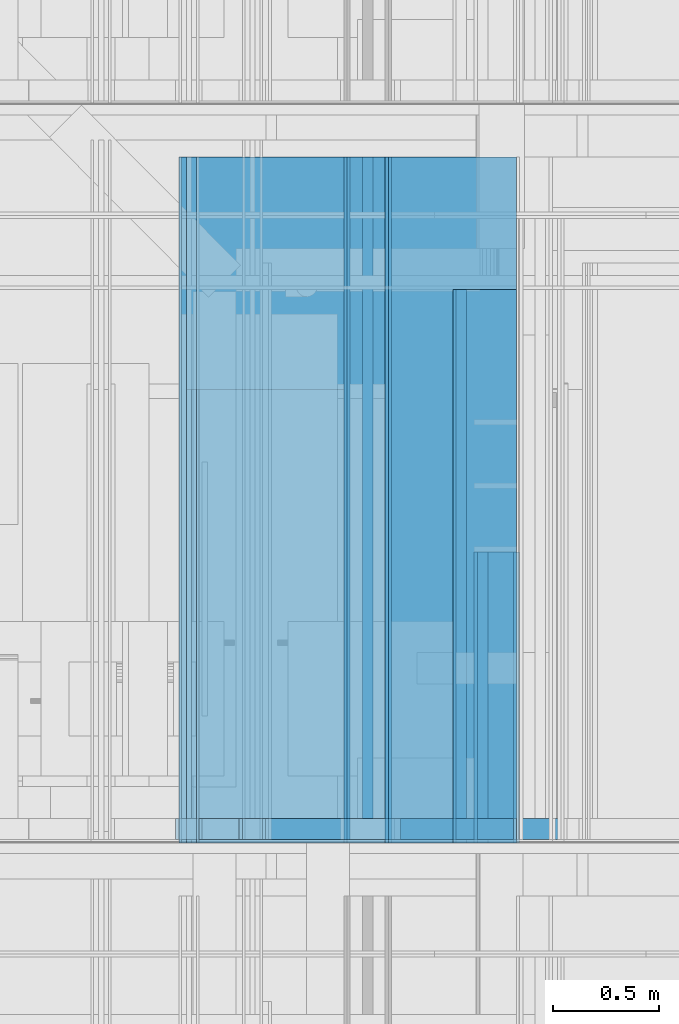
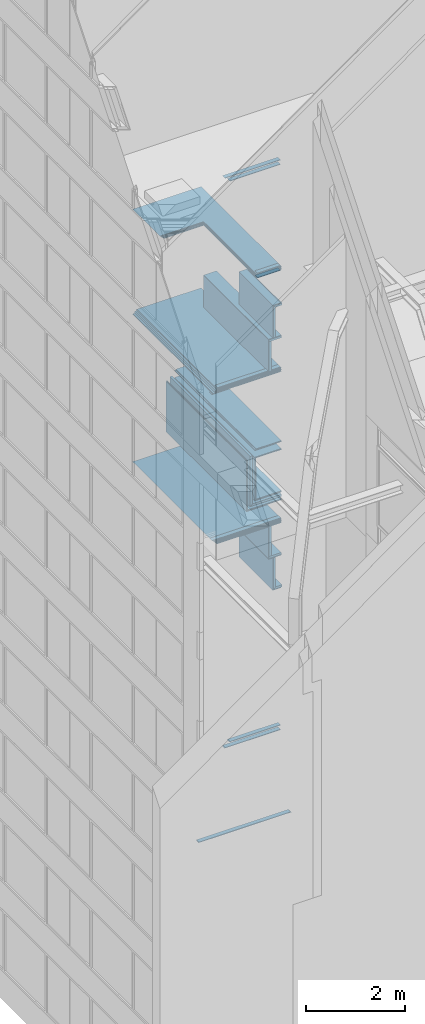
# One storey, part 70 of 583: 50 building element parts, 3 openings, 17 elements without a shape of their own.
"""IFC2X3 building model written with IfcOpenShell, lengths in metres."""

from ifc_helpers import new_model, entity, si_unit, converted_unit, derived_unit, money_unit, direction, frame, frame_2d, origin_with_axes, place, context, subcontext, project, spatial, polyline, rectangle, outline, extrude, material, type_object, element, aggregate, save


model = new_model("IFC2X3")

# Units and contexts
model_context = context("Model", 3, precision=1e-05, world=origin_with_axes(), true_north=direction((0.0, 1.0)))
body_context = subcontext(model_context, "Body", "Model", "MODEL_VIEW", scale=1.0)
ifc_project = project(units=[si_unit("LENGTHUNIT", "METRE"), si_unit("AREAUNIT", "SQUARE_METRE"), si_unit("VOLUMEUNIT", "CUBIC_METRE"), si_unit("ABSORBEDDOSEUNIT", "GRAY"), si_unit("AMOUNTOFSUBSTANCEUNIT", "MOLE"), si_unit("DOSEEQUIVALENTUNIT", "SIEVERT"), si_unit("ELECTRICCAPACITANCEUNIT", "FARAD"), si_unit("ELECTRICCHARGEUNIT", "COULOMB"), si_unit("ELECTRICCONDUCTANCEUNIT", "SIEMENS"), si_unit("ELECTRICCURRENTUNIT", "AMPERE"), si_unit("ELECTRICRESISTANCEUNIT", "OHM"), si_unit("ELECTRICVOLTAGEUNIT", "VOLT"), si_unit("ENERGYUNIT", "JOULE"), si_unit("FORCEUNIT", "NEWTON"), si_unit("FREQUENCYUNIT", "HERTZ"), si_unit("ILLUMINANCEUNIT", "LUX"), si_unit("INDUCTANCEUNIT", "HENRY"), si_unit("LUMINOUSFLUXUNIT", "LUMEN"), si_unit("LUMINOUSINTENSITYUNIT", "CANDELA"), si_unit("MAGNETICFLUXDENSITYUNIT", "TESLA"), si_unit("MAGNETICFLUXUNIT", "WEBER"), si_unit("MASSUNIT", "GRAM"), converted_unit("PLANEANGLEUNIT", "degree", entity("IfcReal", 0.0174532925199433), si_unit("PLANEANGLEUNIT", "RADIAN"), dimensions=[0, 0, 0, 0, 0, 0, 0]), si_unit("POWERUNIT", "WATT"), si_unit("PRESSUREUNIT", "PASCAL"), si_unit("RADIOACTIVITYUNIT", "BECQUEREL"), si_unit("SOLIDANGLEUNIT", "STERADIAN"), si_unit("THERMODYNAMICTEMPERATUREUNIT", "KELVIN"), si_unit("TIMEUNIT", "SECOND"), derived_unit("ACCELERATIONUNIT", [(si_unit("LENGTHUNIT", "METRE"), 1), (si_unit("TIMEUNIT", "SECOND"), -2)]), derived_unit("ANGULARVELOCITYUNIT", [(converted_unit("PLANEANGLEUNIT", "degree", entity("IfcReal", 0.0174532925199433), si_unit("PLANEANGLEUNIT", "RADIAN"), dimensions=[0, 0, 0, 0, 0, 0, 0]), 1), (si_unit("TIMEUNIT", "SECOND"), -1)]), derived_unit("CURVATUREUNIT", [(converted_unit("PLANEANGLEUNIT", "degree", entity("IfcReal", 0.0174532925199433), si_unit("PLANEANGLEUNIT", "RADIAN"), dimensions=[0, 0, 0, 0, 0, 0, 0]), 1), (si_unit("LENGTHUNIT", "METRE"), -1)]), derived_unit("DYNAMICVISCOSITYUNIT", [(si_unit("PRESSUREUNIT", "PASCAL"), 1), (si_unit("TIMEUNIT", "SECOND"), 1)]), derived_unit("HEATFLUXDENSITYUNIT", [(si_unit("POWERUNIT", "WATT"), 1), (si_unit("LENGTHUNIT", "METRE"), -2)]), derived_unit("HEATINGVALUEUNIT", [(si_unit("ENERGYUNIT", "JOULE"), 1), (si_unit("MASSUNIT", "GRAM"), -1)]), derived_unit("INTEGERCOUNTRATEUNIT", [(si_unit("TIMEUNIT", "SECOND"), -1)]), derived_unit("IONCONCENTRATIONUNIT", [(si_unit("MASSUNIT", "GRAM"), 1), (si_unit("VOLUMEUNIT", "CUBIC_METRE"), -1)]), derived_unit("ISOTHERMALMOISTURECAPACITYUNIT", [(si_unit("VOLUMEUNIT", "CUBIC_METRE"), 1), (si_unit("MASSUNIT", "GRAM"), -1)]), derived_unit("KINEMATICVISCOSITYUNIT", [(si_unit("AREAUNIT", "SQUARE_METRE"), 1), (si_unit("TIMEUNIT", "SECOND"), -1)]), derived_unit("LINEARFORCEUNIT", [(si_unit("FORCEUNIT", "NEWTON"), 1), (si_unit("LENGTHUNIT", "METRE"), -1)]), derived_unit("LINEARMOMENTUNIT", [(si_unit("FORCEUNIT", "NEWTON"), 1), (si_unit("LENGTHUNIT", "METRE"), -1)]), derived_unit("LINEARSTIFFNESSUNIT", [(si_unit("FORCEUNIT", "NEWTON"), 1), (si_unit("LENGTHUNIT", "METRE"), -1)]), derived_unit("LINEARVELOCITYUNIT", [(si_unit("LENGTHUNIT", "METRE"), 1), (si_unit("TIMEUNIT", "SECOND"), -1)]), derived_unit("LUMINOUSINTENSITYDISTRIBUTIONUNIT", [(si_unit("LUMINOUSINTENSITYUNIT", "CANDELA"), 1), (si_unit("LUMINOUSFLUXUNIT", "LUMEN"), -1)]), derived_unit("MASSDENSITYUNIT", [(si_unit("MASSUNIT", "GRAM"), 1), (si_unit("VOLUMEUNIT", "CUBIC_METRE"), -1)]), derived_unit("MASSFLOWRATEUNIT", [(si_unit("MASSUNIT", "GRAM"), 1), (si_unit("TIMEUNIT", "SECOND"), -1)]), derived_unit("MASSPERLENGTHUNIT", [(si_unit("MASSUNIT", "GRAM"), 1), (si_unit("LENGTHUNIT", "METRE"), -1)]), derived_unit("MODULUSOFELASTICITYUNIT", [(si_unit("FORCEUNIT", "NEWTON"), 1), (si_unit("AREAUNIT", "SQUARE_METRE"), -1)]), derived_unit("MODULUSOFLINEARSUBGRADEREACTIONUNIT", [(si_unit("FORCEUNIT", "NEWTON"), 1), (si_unit("LENGTHUNIT", "METRE"), -2)]), derived_unit("MODULUSOFROTATIONALSUBGRADEREACTIONUNIT", [(si_unit("FORCEUNIT", "NEWTON"), 1), (si_unit("LENGTHUNIT", "METRE"), 1)]), derived_unit("MODULUSOFSUBGRADEREACTIONUNIT", [(si_unit("FORCEUNIT", "NEWTON"), 1), (si_unit("VOLUMEUNIT", "CUBIC_METRE"), -1)]), derived_unit("MOISTUREDIFFUSIVITYUNIT", [(si_unit("VOLUMEUNIT", "CUBIC_METRE"), 1), (si_unit("TIMEUNIT", "SECOND"), -1)]), derived_unit("MOLECULARWEIGHTUNIT", [(si_unit("MASSUNIT", "GRAM"), 1), (si_unit("AMOUNTOFSUBSTANCEUNIT", "MOLE"), -1)]), derived_unit("PLANARFORCEUNIT", [(si_unit("FORCEUNIT", "NEWTON"), 1), (si_unit("LENGTHUNIT", "METRE"), -2)]), derived_unit("ROTATIONALFREQUENCYUNIT", [(si_unit("TIMEUNIT", "SECOND"), -1)]), derived_unit("ROTATIONALMASSUNIT", [(si_unit("MASSUNIT", "GRAM"), 1), (si_unit("LENGTHUNIT", "METRE"), 2)]), derived_unit("ROTATIONALSTIFFNESSUNIT", [(si_unit("FORCEUNIT", "NEWTON"), 1), (si_unit("LENGTHUNIT", "METRE"), 1), (converted_unit("PLANEANGLEUNIT", "degree", entity("IfcReal", 0.0174532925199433), si_unit("PLANEANGLEUNIT", "RADIAN"), dimensions=[0, 0, 0, 0, 0, 0, 0]), -1)]), derived_unit("SECTIONAREAINTEGRALUNIT", [(si_unit("LENGTHUNIT", "METRE"), 5)]), derived_unit("SECTIONMODULUSUNIT", [(si_unit("LENGTHUNIT", "METRE"), 3)]), derived_unit("SHEARMODULUSUNIT", [(si_unit("FORCEUNIT", "NEWTON"), 1), (si_unit("AREAUNIT", "SQUARE_METRE"), -1)]), derived_unit("SOUNDPOWERUNIT", [(si_unit("ENERGYUNIT", "JOULE"), 1), (si_unit("TIMEUNIT", "SECOND"), -1)]), derived_unit("SPECIFICHEATCAPACITYUNIT", [(si_unit("FORCEUNIT", "NEWTON"), 1), (si_unit("MASSUNIT", "GRAM"), -1), (si_unit("THERMODYNAMICTEMPERATUREUNIT", "KELVIN"), -1)]), derived_unit("TEMPERATUREGRADIENTUNIT", [(si_unit("THERMODYNAMICTEMPERATUREUNIT", "KELVIN"), 1), (si_unit("LENGTHUNIT", "METRE"), -1)]), derived_unit("THERMALADMITTANCEUNIT", [(si_unit("POWERUNIT", "WATT"), 1), (si_unit("AREAUNIT", "SQUARE_METRE"), -1), (si_unit("THERMODYNAMICTEMPERATUREUNIT", "KELVIN"), -1)]), derived_unit("THERMALCONDUCTANCEUNIT", [(si_unit("POWERUNIT", "WATT"), 1), (si_unit("LENGTHUNIT", "METRE"), -1), (si_unit("THERMODYNAMICTEMPERATUREUNIT", "KELVIN"), -1)]), derived_unit("THERMALEXPANSIONCOEFFICIENTUNIT", [(si_unit("THERMODYNAMICTEMPERATUREUNIT", "KELVIN"), -1)]), derived_unit("THERMALRESISTANCEUNIT", [(si_unit("AREAUNIT", "SQUARE_METRE"), 1), (si_unit("POWERUNIT", "WATT"), -1)]), derived_unit("THERMALTRANSMITTANCEUNIT", [(si_unit("POWERUNIT", "WATT"), 1), (si_unit("AREAUNIT", "SQUARE_METRE"), -1), (si_unit("THERMODYNAMICTEMPERATUREUNIT", "KELVIN"), -1)]), derived_unit("TORQUEUNIT", [(si_unit("FORCEUNIT", "NEWTON"), 1), (si_unit("LENGTHUNIT", "METRE"), 1)]), derived_unit("VAPORPERMEABILITYUNIT", [(si_unit("MASSUNIT", "GRAM"), 1), (si_unit("TIMEUNIT", "SECOND"), -1)]), derived_unit("VOLUMETRICFLOWRATEUNIT", [(si_unit("VOLUMEUNIT", "CUBIC_METRE"), 1), (si_unit("TIMEUNIT", "SECOND"), -1)]), derived_unit("WARPINGCONSTANTUNIT", [(si_unit("LENGTHUNIT", "METRE"), 6)]), derived_unit("WARPINGMOMENTUNIT", [(si_unit("FORCEUNIT", "NEWTON"), 1), (si_unit("LENGTHUNIT", "METRE"), 2)]), money_unit("GBP")], contexts=[model_context])

# Site, building, storey
site_placement = place(None, origin_with_axes())
site = spatial("IfcSite", under=ifc_project, at=site_placement, Name="Site", CompositionType="ELEMENT")
building_placement = place(site_placement, origin_with_axes())
building = spatial("IfcBuilding", under=site, at=building_placement, Name="Building01", CompositionType="ELEMENT")
storey_placement = place(building_placement, frame((0.0, 0.0, 20.78), z_axis=(0.0, 0.0, 1.0), x_axis=(1.0, 0.0, 0.0)))
storey = spatial("IfcBuildingStorey", under=building, at=storey_placement, Name="RL", CompositionType="ELEMENT", Elevation=20.78)

# Wall, building element parts
wall_type_1 = type_object("IfcWallType", Name="SHE_A-Walls_Type01c_Partywall_225mm_twin_tall", PredefinedType="NOTDEFINED")
wall_1_placement = place(storey_placement, frame((4.302428, 8.64, -8.492), z_axis=(0.0, 1.0, 0.0), x_axis=(0.0, 0.0, 1.0)))
wall_1 = element("IfcWall", 1, at=wall_1_placement, inside=storey, type_object=wall_type_1, Name="1C", ObjectType="SHE_A-Walls_Type01c_Partywall_225mm_twin_tall")
ifc_material_1 = material(Name="A_BSUK_Insulation")
placement_1 = place(wall_1_placement, origin_with_axes())
building_element_part_1 = element("IfcBuildingElementPart", 2, at=placement_1, material=ifc_material_1, Name="1", context=body_context, shape_type="SweptSolid", body=[
    extrude(outline(polyline([(1.1875, 0.0), (0.0, 0.0), (-0.05, -0.05), (1.1875, -0.05), (1.1875, 0.0)])), origin_with_axes(), (0.0, 0.0, 1.0), 3.24),
])
ifc_material_2 = material(Name="A_BSUK_WallInternal_Finishes_Plasterboard")
building_element_part_2 = element("IfcBuildingElementPart", 3, at=placement_1, material=ifc_material_2, Name="3", context=body_context, shape_type="SweptSolid", body=[
    extrude(outline(polyline([(1.1145, 0.087), (0.087, 0.087), (0.072, 0.072), (1.1145, 0.072), (1.1145, 0.087)])), origin_with_axes(), (0.0, 0.0, 1.0), 3.24),
])
building_element_part_3 = element("IfcBuildingElementPart", 4, at=placement_1, material=ifc_material_2, Name="4", context=body_context, shape_type="SweptSolid", body=[
    extrude(outline(polyline([(1.1145, 0.072), (0.072, 0.072), (0.057, 0.057), (1.1145, 0.057), (1.1145, 0.072)])), origin_with_axes(), (0.0, 0.0, 1.0), 3.24),
])
building_element_part_4 = element("IfcBuildingElementPart", 5, at=placement_1, material=ifc_material_2, Name="5", context=body_context, shape_type="SweptSolid", body=[
    extrude(outline(polyline([(1.1145, -0.108), (-0.108, -0.108), (-0.123, -0.123), (1.1145, -0.123), (1.1145, -0.108)])), origin_with_axes(), (0.0, 0.0, 1.0), 3.24),
])
building_element_part_5 = element("IfcBuildingElementPart", 6, at=placement_1, material=ifc_material_2, Name="6", context=body_context, shape_type="SweptSolid", body=[
    extrude(outline(polyline([(1.0995, -0.123), (-0.123, -0.123), (-0.138, -0.138), (1.0995, -0.138), (1.0995, -0.123)])), origin_with_axes(), (0.0, 0.0, 1.0), 3.24),
])
aggregate(wall_1, [building_element_part_1, building_element_part_2, building_element_part_3, building_element_part_4, building_element_part_5])

wall_2_placement = place(storey_placement, frame((4.995, 8.64, -7.2795), z_axis=(0.0, 1.0, 0.0), x_axis=(-1.0, 0.0, 0.0)))
wall_2 = element("IfcWall", 7, at=wall_2_placement, inside=storey, type_object=wall_type_1, Name="1C", ObjectType="SHE_A-Walls_Type01c_Partywall_225mm_twin_tall")
placement_2 = place(wall_2_placement, origin_with_axes())
building_element_part_6 = element("IfcBuildingElementPart", 8, at=placement_2, material=ifc_material_2, Name="3", context=body_context, shape_type="SweptSolid", body=[
    extrude(rectangle(XDim=0.590572, YDim=0.015, at=frame_2d((0.310286, 0.1045), x_axis=(-1.0, 0.0))), origin_with_axes(), (0.0, 0.0, 1.0), 3.24),
])
building_element_part_7 = element("IfcBuildingElementPart", 9, at=placement_2, material=ifc_material_2, Name="4", context=body_context, shape_type="SweptSolid", body=[
    extrude(rectangle(XDim=0.620572, YDim=0.015, at=frame_2d((0.325286, 0.0895), x_axis=(-1.0, 0.0))), origin_with_axes(), (0.0, 0.0, 1.0), 3.24),
])
building_element_part_8 = element("IfcBuildingElementPart", 10, at=placement_2, material=ifc_material_2, Name="5", context=body_context, shape_type="SweptSolid", body=[
    extrude(rectangle(XDim=0.620572, YDim=0.015, at=frame_2d((0.325286, -0.0905), x_axis=(-1.0, 0.0))), origin_with_axes(), (0.0, 0.0, 1.0), 3.24),
])
building_element_part_9 = element("IfcBuildingElementPart", 11, at=placement_2, material=ifc_material_2, Name="6", context=body_context, shape_type="SweptSolid", body=[
    extrude(rectangle(XDim=0.590572, YDim=0.015, at=frame_2d((0.310286, -0.1055), x_axis=(-1.0, 0.0))), origin_with_axes(), (0.0, 0.0, 1.0), 3.24),
])
aggregate(wall_2, [building_element_part_6, building_element_part_7, building_element_part_8, building_element_part_9])

# Wall, building element part
wall_3_placement = place(storey_placement, frame((0.318, 8.64, -16.258), z_axis=(0.0, 1.0, 0.0), x_axis=(1.0, 0.0, 0.0)))
wall_3 = element("IfcWall", 12, at=wall_3_placement, inside=storey, type_object=wall_type_1, Name="1C", ObjectType="SHE_A-Walls_Type01c_Partywall_225mm_twin_tall")
ifc_material_3 = material(Name="A_BSUK_Walls_Timber")
building_element_part_10_placement = place(wall_3_placement, origin_with_axes())
building_element_part_10 = element("IfcBuildingElementPart", 13, at=building_element_part_10_placement, material=ifc_material_3, Name="8", context=body_context, shape_type="SweptSolid", body=[
    extrude(outline(polyline([(4.902, 0.152), (2.747286, 0.152), (2.747286, 0.137), (4.887, 0.137), (4.902, 0.152)])), frame((0.0, 0.0, 0.015), z_axis=(0.0, 0.0, 1.0), x_axis=(1.0, 0.0, 0.0)), (0.0, 0.0, 1.0), 0.1),
])
aggregate(wall_3, [building_element_part_10])

# Wall, building element parts
wall_4_placement = place(storey_placement, frame((4.98, 8.64, -8.492), z_axis=(0.0, 1.0, 0.0), x_axis=(-1.0, 0.0, 0.0)))
wall_4 = element("IfcWall", 14, at=wall_4_placement, inside=storey, type_object=wall_type_1, Name="1C", ObjectType="SHE_A-Walls_Type01c_Partywall_225mm_twin_tall")
placement_3 = place(wall_4_placement, origin_with_axes())
building_element_part_11 = element("IfcBuildingElementPart", 15, at=placement_3, material=ifc_material_1, Name="1", context=body_context, shape_type="SweptSolid", body=[
    extrude(outline(polyline([(0.677572, 0.0), (0.0, 0.0), (0.0, -0.05), (0.727572, -0.05), (0.677572, 0.0)])), origin_with_axes(), (0.0, 0.0, 1.0), 3.24),
])
building_element_part_12 = element("IfcBuildingElementPart", 16, at=placement_3, material=ifc_material_2, Name="3", context=body_context, shape_type="SweptSolid", body=[
    extrude(outline(polyline([(0.590572, 0.087), (0.0, 0.087), (0.0, 0.072), (0.605572, 0.072), (0.590572, 0.087)])), origin_with_axes(), (0.0, 0.0, 1.0), 3.24),
])
building_element_part_13 = element("IfcBuildingElementPart", 17, at=placement_3, material=ifc_material_2, Name="4", context=body_context, shape_type="SweptSolid", body=[
    extrude(outline(polyline([(0.605572, 0.072), (0.0, 0.072), (0.0, 0.057), (0.620572, 0.057), (0.605572, 0.072)])), origin_with_axes(), (0.0, 0.0, 1.0), 3.24),
])
building_element_part_14 = element("IfcBuildingElementPart", 18, at=placement_3, material=ifc_material_2, Name="5", context=body_context, shape_type="SweptSolid", body=[
    extrude(outline(polyline([(0.785572, -0.108), (0.0, -0.108), (0.0, -0.123), (0.800572, -0.123), (0.785572, -0.108)])), origin_with_axes(), (0.0, 0.0, 1.0), 3.24),
])
building_element_part_15 = element("IfcBuildingElementPart", 19, at=placement_3, material=ifc_material_2, Name="6", context=body_context, shape_type="SweptSolid", body=[
    extrude(outline(polyline([(0.800572, -0.123), (0.0, -0.123), (0.0, -0.138), (0.815572, -0.138), (0.800572, -0.123)])), origin_with_axes(), (0.0, 0.0, 1.0), 3.24),
])
aggregate(wall_4, [building_element_part_11, building_element_part_12, building_element_part_13, building_element_part_14, building_element_part_15])

wall_type_2 = type_object("IfcWallType", Name="SHE_A-Walls_Type05c_PreWallShell_65mm", PredefinedType="NOTDEFINED")
wall_5_placement = place(storey_placement, frame((4.845, 8.64, -3.8375), z_axis=(0.0, 1.0, 0.0), x_axis=(1.0, 0.0, 0.0)))
wall_5 = element("IfcWall", 20, at=wall_5_placement, inside=storey, type_object=wall_type_2, Name="5C", ObjectType="SHE_A-Walls_Type05c_PreWallShell_65mm")
ifc_material_4 = material(Name="A_BSUK_OpeningsClearance")
placement_4 = place(wall_5_placement, origin_with_axes())
building_element_part_16 = element("IfcBuildingElementPart", 21, at=placement_4, material=ifc_material_4, Name="1", context=body_context, shape_type="SweptSolid", body=[
    extrude(outline(polyline([(0.15, 0.0), (0.0, 0.0), (-0.05, -0.05), (0.15, -0.05), (0.15, 0.0)])), origin_with_axes(), (0.0, 0.0, 1.0), 1.375),
])
building_element_part_17 = element("IfcBuildingElementPart", 22, at=placement_4, material=ifc_material_3, Name="2", context=body_context, shape_type="SweptSolid", body=[
    extrude(outline(polyline([(0.12, -0.05), (-0.05, -0.05), (-0.065, -0.065), (0.12, -0.065), (0.12, -0.05)])), origin_with_axes(), (0.0, 0.0, 1.0), 1.375),
])
aggregate(wall_5, [building_element_part_16, building_element_part_17])

wall_6_placement = place(storey_placement, frame((4.845, 8.64, -4.5725), z_axis=(0.0, 1.0, 0.0), x_axis=(0.0, 0.0, 1.0)))
wall_6 = element("IfcWall", 23, at=wall_6_placement, inside=storey, type_object=wall_type_2, Name="5C", ObjectType="SHE_A-Walls_Type05c_PreWallShell_65mm")
placement_5 = place(wall_6_placement, origin_with_axes())
building_element_part_18 = element("IfcBuildingElementPart", 24, at=placement_5, material=ifc_material_4, Name="1", context=body_context, shape_type="SweptSolid", body=[
    extrude(outline(polyline([(0.735, 0.0), (0.0, 0.0), (0.0, -0.05), (0.785, -0.05), (0.735, 0.0)])), origin_with_axes(), (0.0, 0.0, 1.0), 1.375),
])
building_element_part_19 = element("IfcBuildingElementPart", 25, at=placement_5, material=ifc_material_3, Name="2", context=body_context, shape_type="SweptSolid", body=[
    extrude(outline(polyline([(0.785, -0.05), (0.0, -0.05), (0.0, -0.065), (0.8, -0.065), (0.785, -0.05)])), origin_with_axes(), (0.0, 0.0, 1.0), 1.375),
])
aggregate(wall_6, [building_element_part_18, building_element_part_19])

wall_type_3 = type_object("IfcWallType", Name="SHE_A-Walls_Type05a_Partition_95mm_tall", PredefinedType="NOTDEFINED")
wall_7_placement = place(storey_placement, frame((3.42, 8.64, -5.4325), z_axis=(0.0, 1.0, 0.0), x_axis=(1.0, 0.0, 0.0)))
wall_7 = element("IfcWall", 26, at=wall_7_placement, inside=storey, type_object=wall_type_3, Name="5A", ObjectType="SHE_A-Walls_Type05a_Partition_95mm_tall")
placement_6 = place(wall_7_placement, origin_with_axes())
building_element_part_20 = element("IfcBuildingElementPart", 27, at=placement_6, material=ifc_material_1, Name="1", context=body_context, shape_type="SweptSolid", body=[
    extrude(outline(polyline([(1.56, 0.0), (0.0, 0.0), (0.025, -0.025), (1.56, -0.025), (1.56, 0.0)])), origin_with_axes(), (0.0, 0.0, 1.0), 3.24),
])
building_element_part_21 = element("IfcBuildingElementPart", 28, at=placement_6, material=ifc_material_3, Name="2", context=body_context, shape_type="SweptSolid", body=[
    extrude(outline(polyline([(1.545, 0.05), (-0.05, 0.05), (-0.035, 0.035), (1.545, 0.035), (1.545, 0.05)])), frame((0.0, 0.0, 0.015), z_axis=(0.0, 0.0, 1.0), x_axis=(1.0, 0.0, 0.0)), (0.0, 0.0, 1.0), 0.1),
])
building_element_part_22 = element("IfcBuildingElementPart", 29, at=placement_6, material=ifc_material_3, Name="3", context=body_context, shape_type="SweptSolid", body=[
    extrude(outline(polyline([(1.545, -0.06), (0.06, -0.06), (0.075, -0.075), (1.545, -0.075), (1.545, -0.06)])), frame((0.0, 0.0, 0.015), z_axis=(0.0, 0.0, 1.0), x_axis=(1.0, 0.0, 0.0)), (0.0, 0.0, 1.0), 0.1),
])
building_element_part_23 = element("IfcBuildingElementPart", 30, at=placement_6, material=ifc_material_2, Name="4", context=body_context, shape_type="SweptSolid", body=[
    extrude(outline(polyline([(1.56, 0.035), (-0.035, 0.035), (-0.023, 0.023), (1.56, 0.023), (1.56, 0.035)])), origin_with_axes(), (0.0, 0.0, 1.0), 3.24),
])
building_element_part_24 = element("IfcBuildingElementPart", 31, at=placement_6, material=ifc_material_2, Name="5", context=body_context, shape_type="SweptSolid", body=[
    extrude(outline(polyline([(1.56, -0.048), (0.048, -0.048), (0.06, -0.06), (1.56, -0.06), (1.56, -0.048)])), origin_with_axes(), (0.0, 0.0, 1.0), 3.24),
])
aggregate(wall_7, [building_element_part_20, building_element_part_21, building_element_part_22, building_element_part_23, building_element_part_24])

wall_8_placement = place(storey_placement, frame((4.695, 8.64, -4.6375), z_axis=(0.0, 1.0, 0.0), x_axis=(1.0, 0.0, 0.0)))
wall_8 = element("IfcWall", 32, at=wall_8_placement, inside=storey, type_object=wall_type_2, Name="5C", ObjectType="SHE_A-Walls_Type05c_PreWallShell_65mm")
placement_7 = place(wall_8_placement, origin_with_axes())
building_element_part_25 = element("IfcBuildingElementPart", 33, at=placement_7, material=ifc_material_4, Name="1", context=body_context, shape_type="SweptSolid", body=[
    extrude(rectangle(XDim=0.285, YDim=0.05, at=frame_2d((0.1425, -0.025), x_axis=(-1.0, 0.0))), origin_with_axes(), (0.0, 0.0, 1.0), 2.615),
])
building_element_part_26 = element("IfcBuildingElementPart", 34, at=placement_7, material=ifc_material_3, Name="2", context=body_context, shape_type="SweptSolid", body=[
    extrude(rectangle(XDim=0.3, YDim=0.015, at=frame_2d((0.135, -0.0575), x_axis=(-1.0, 0.0))), origin_with_axes(), (0.0, 0.0, 1.0), 2.615),
])
aggregate(wall_8, [building_element_part_25, building_element_part_26])

wall_9_placement = place(storey_placement, frame((4.745, 8.64, -5.3725), z_axis=(0.0, 1.0, 0.0), x_axis=(0.0, 0.0, 1.0)))
wall_9 = element("IfcWall", 35, at=wall_9_placement, inside=storey, type_object=wall_type_2, Name="5C", ObjectType="SHE_A-Walls_Type05c_PreWallShell_65mm")
placement_8 = place(wall_9_placement, origin_with_axes())
building_element_part_27 = element("IfcBuildingElementPart", 36, at=placement_8, material=ifc_material_4, Name="1", context=body_context, shape_type="SweptSolid", body=[
    extrude(rectangle(XDim=0.735, YDim=0.05, at=frame_2d((0.3675, -0.025), x_axis=(-1.0, 0.0))), origin_with_axes(), (0.0, 0.0, 1.0), 2.615),
])
building_element_part_28 = element("IfcBuildingElementPart", 37, at=placement_8, material=ifc_material_3, Name="2", context=body_context, shape_type="SweptSolid", body=[
    extrude(rectangle(XDim=0.785, YDim=0.015, at=frame_2d((0.3925, -0.0575), x_axis=(-1.0, 0.0))), origin_with_axes(), (0.0, 0.0, 1.0), 2.615),
])
aggregate(wall_9, [building_element_part_27, building_element_part_28])

# Wall, openings, building element parts
wall_10_placement = place(storey_placement, frame((4.98, 8.64, -2.9125), z_axis=(0.0, 1.0, 0.0), x_axis=(-1.0, 0.0, 0.0)))
wall_10 = element("IfcWall", 38, at=wall_10_placement, inside=storey, type_object=wall_type_3, Name="5A", ObjectType="SHE_A-Walls_Type05a_Partition_95mm_tall")
opening_1_placement = place(wall_10_placement, frame((0.574219, -0.1, -0.015), z_axis=(0.0, 0.0, 1.0), x_axis=(1.0, 0.0, 0.0)))
element("IfcOpeningElement", 39, at=opening_1_placement, cuts=wall_10, Name="Opening", ObjectType="Opening", context=body_context, shape_type="SweptSolid", body=[
    extrude(rectangle(XDim=0.834, YDim=2.142, at=frame_2d((0.417, 1.071), x_axis=(-1.0, 0.0))), frame((0.0, 3.016327, 0.0), z_axis=(0.0, -1.0, 0.0), x_axis=(1.0, 0.0, 0.0)), (0.0, 0.0, 1.0), 6.032653),
])
opening_2_placement = place(wall_10_placement, frame((0.774219, -0.06, 0.0), z_axis=(0.0, 0.0, 1.0), x_axis=(1.0, 0.0, 0.0)))
element("IfcOpeningElement", 40, at=opening_2_placement, cuts=wall_10, Name="Opening", ObjectType="Opening", context=body_context, shape_type="SweptSolid", body=[
    extrude(rectangle(XDim=2.142, YDim=0.834, at=frame_2d((0.417, 1.071), x_axis=(0.0, -1.0))), frame((0.0, 4.043482, 0.0), z_axis=(0.0, -1.0, 0.0), x_axis=(1.0, 0.0, 0.0)), (0.0, 0.0, 1.0), 8.086964),
])
opening_3_placement = place(wall_10_placement, frame((0.574219, 0.035, 0.0), z_axis=(0.0, 0.0, 1.0), x_axis=(1.0, 0.0, 0.0)))
element("IfcOpeningElement", 41, at=opening_3_placement, cuts=wall_10, Name="Opening", ObjectType="Opening", context=body_context, shape_type="SweptSolid", body=[
    extrude(rectangle(XDim=2.142, YDim=0.834, at=frame_2d((-0.417, 1.071), x_axis=(0.0, -1.0))), frame((0.0, -3.956148, 0.0), z_axis=(0.0, 1.0, 0.0), x_axis=(-1.0, 0.0, 0.0)), (0.0, 0.0, 1.0), 7.912296),
])
placement_9 = place(wall_10_placement, origin_with_axes())
building_element_part_29 = element("IfcBuildingElementPart", 42, at=placement_9, material=ifc_material_1, Name="1", context=body_context, shape_type="SweptSolid", body=[
    extrude(outline(polyline([(1.56, 0.0), (0.0, 0.0), (0.0, -0.025), (1.535, -0.025), (1.56, 0.0)])), origin_with_axes(), (0.0, 0.0, 1.0), 3.24),
])
building_element_part_30 = element("IfcBuildingElementPart", 43, at=placement_9, material=ifc_material_3, Name="2", context=body_context, shape_type="SweptSolid", body=[
    extrude(rectangle(XDim=0.015, YDim=0.532219, at=frame_2d((0.28111, 0.0425), x_axis=(0.0, -1.0))), frame((0.0, 0.0, 0.015), z_axis=(0.0, 0.0, 1.0), x_axis=(1.0, 0.0, 0.0)), (0.0, 0.0, 1.0), 0.1),
])
building_element_part_31 = element("IfcBuildingElementPart", 44, at=placement_9, material=ifc_material_3, Name="3", context=body_context, shape_type="SweptSolid", body=[
    extrude(rectangle(XDim=0.015, YDim=0.532219, at=frame_2d((0.28111, -0.0675), x_axis=(0.0, -1.0))), frame((0.0, 0.0, 0.015), z_axis=(0.0, 0.0, 1.0), x_axis=(1.0, 0.0, 0.0)), (0.0, 0.0, 1.0), 0.1),
])
building_element_part_32 = element("IfcBuildingElementPart", 45, at=placement_9, material=ifc_material_2, Name="4", context=body_context, shape_type="SweptSolid", body=[
    extrude(outline(polyline([(1.595, 0.035), (0.0, 0.035), (0.0, 0.023), (1.583, 0.023), (1.595, 0.035)])), origin_with_axes(), (0.0, 0.0, 1.0), 3.24),
])
building_element_part_33 = element("IfcBuildingElementPart", 46, at=placement_9, material=ifc_material_2, Name="5", context=body_context, shape_type="SweptSolid", body=[
    extrude(outline(polyline([(1.512, -0.048), (0.0, -0.048), (0.0, -0.06), (1.5, -0.06), (1.512, -0.048)])), origin_with_axes(), (0.0, 0.0, 1.0), 3.24),
])
aggregate(wall_10, [building_element_part_29, building_element_part_30, building_element_part_31, building_element_part_32, building_element_part_33])

# Wall, building element parts
wall_11_placement = place(storey_placement, frame((4.845, 8.64, -10.722464), z_axis=(0.0, 1.0, 0.0), x_axis=(-1.0, 0.0, 0.0)))
wall_11 = element("IfcWall", 47, at=wall_11_placement, inside=storey, type_object=wall_type_2, Name="5C", ObjectType="SHE_A-Walls_Type05c_PreWallShell_65mm")
placement_10 = place(wall_11_placement, origin_with_axes())
building_element_part_34 = element("IfcBuildingElementPart", 48, at=placement_10, material=ifc_material_4, Name="1", context=body_context, shape_type="SweptSolid", body=[
    extrude(outline(polyline([(-0.15, -0.05), (0.05, -0.05), (0.0, 0.0), (-0.15, 0.0), (-0.15, -0.05)])), origin_with_axes(), (0.0, 0.0, 1.0), 1.375),
])
building_element_part_35 = element("IfcBuildingElementPart", 49, at=placement_10, material=ifc_material_3, Name="2", context=body_context, shape_type="SweptSolid", body=[
    extrude(outline(polyline([(-0.12, -0.065), (0.065, -0.065), (0.05, -0.05), (-0.12, -0.05), (-0.12, -0.065)])), origin_with_axes(), (0.0, 0.0, 1.0), 1.375),
])
aggregate(wall_11, [building_element_part_34, building_element_part_35])

wall_12_placement = place(storey_placement, frame((4.845, 8.64, -9.987464), z_axis=(0.0, 1.0, 0.0), x_axis=(0.0, 0.0, 1.0)))
wall_12 = element("IfcWall", 50, at=wall_12_placement, inside=storey, type_object=wall_type_2, Name="5C", ObjectType="SHE_A-Walls_Type05c_PreWallShell_65mm")
placement_11 = place(wall_12_placement, origin_with_axes())
building_element_part_36 = element("IfcBuildingElementPart", 51, at=placement_11, material=ifc_material_4, Name="1", context=body_context, shape_type="SweptSolid", body=[
    extrude(outline(polyline([(-0.785, -0.05), (0.0, -0.05), (0.0, 0.0), (-0.735, 0.0), (-0.785, -0.05)])), origin_with_axes(), (0.0, 0.0, 1.0), 1.375),
])
building_element_part_37 = element("IfcBuildingElementPart", 52, at=placement_11, material=ifc_material_3, Name="2", context=body_context, shape_type="SweptSolid", body=[
    extrude(outline(polyline([(-0.8, -0.065), (0.0, -0.065), (0.0, -0.05), (-0.785, -0.05), (-0.8, -0.065)])), origin_with_axes(), (0.0, 0.0, 1.0), 1.375),
])
aggregate(wall_12, [building_element_part_36, building_element_part_37])

wall_13_placement = place(storey_placement, frame((3.42, 8.64, -9.127464), z_axis=(0.0, 1.0, 0.0), x_axis=(-1.0, 0.0, 0.0)))
wall_13 = element("IfcWall", 53, at=wall_13_placement, inside=storey, type_object=wall_type_3, Name="5A", ObjectType="SHE_A-Walls_Type05a_Partition_95mm_tall")
placement_12 = place(wall_13_placement, origin_with_axes())
building_element_part_38 = element("IfcBuildingElementPart", 54, at=placement_12, material=ifc_material_1, Name="1", context=body_context, shape_type="SweptSolid", body=[
    extrude(outline(polyline([(-1.56, -0.025), (-0.025, -0.025), (0.0, 0.0), (-1.56, 0.0), (-1.56, -0.025)])), origin_with_axes(), (0.0, 0.0, 1.0), 3.24),
])
building_element_part_39 = element("IfcBuildingElementPart", 55, at=placement_12, material=ifc_material_3, Name="2", context=body_context, shape_type="SweptSolid", body=[
    extrude(outline(polyline([(-1.56, 0.035), (0.035, 0.035), (0.05, 0.05), (-1.56, 0.05), (-1.56, 0.035)])), frame((0.0, 0.0, 0.015), z_axis=(0.0, 0.0, 1.0), x_axis=(1.0, 0.0, 0.0)), (0.0, 0.0, 1.0), 0.1),
])
building_element_part_40 = element("IfcBuildingElementPart", 56, at=placement_12, material=ifc_material_3, Name="3", context=body_context, shape_type="SweptSolid", body=[
    extrude(outline(polyline([(-1.545, -0.075), (-0.075, -0.075), (-0.06, -0.06), (-1.545, -0.06), (-1.545, -0.075)])), frame((0.0, 0.0, 0.015), z_axis=(0.0, 0.0, 1.0), x_axis=(1.0, 0.0, 0.0)), (0.0, 0.0, 1.0), 0.1),
])
building_element_part_41 = element("IfcBuildingElementPart", 57, at=placement_12, material=ifc_material_2, Name="4", context=body_context, shape_type="SweptSolid", body=[
    extrude(outline(polyline([(-1.56, 0.023), (0.023, 0.023), (0.035, 0.035), (-1.56, 0.035), (-1.56, 0.023)])), origin_with_axes(), (0.0, 0.0, 1.0), 3.24),
])
building_element_part_42 = element("IfcBuildingElementPart", 58, at=placement_12, material=ifc_material_2, Name="5", context=body_context, shape_type="SweptSolid", body=[
    extrude(outline(polyline([(-1.56, -0.06), (-0.06, -0.06), (-0.048, -0.048), (-1.56, -0.048), (-1.56, -0.06)])), origin_with_axes(), (0.0, 0.0, 1.0), 3.24),
])
aggregate(wall_13, [building_element_part_38, building_element_part_39, building_element_part_40, building_element_part_41, building_element_part_42])

wall_14_placement = place(storey_placement, frame((4.695, 8.64, -9.922464), z_axis=(0.0, 1.0, 0.0), x_axis=(-1.0, 0.0, 0.0)))
wall_14 = element("IfcWall", 59, at=wall_14_placement, inside=storey, type_object=wall_type_2, Name="5C", ObjectType="SHE_A-Walls_Type05c_PreWallShell_65mm")
placement_13 = place(wall_14_placement, origin_with_axes())
building_element_part_43 = element("IfcBuildingElementPart", 60, at=placement_13, material=ifc_material_4, Name="1", context=body_context, shape_type="SweptSolid", body=[
    extrude(rectangle(XDim=0.285, YDim=0.05, at=frame_2d((-0.1425, -0.025), x_axis=(1.0, 0.0))), origin_with_axes(), (0.0, 0.0, 1.0), 2.615),
])
building_element_part_44 = element("IfcBuildingElementPart", 61, at=placement_13, material=ifc_material_3, Name="2", context=body_context, shape_type="SweptSolid", body=[
    extrude(rectangle(XDim=0.3, YDim=0.015, at=frame_2d((-0.135, -0.0575), x_axis=(1.0, 0.0))), origin_with_axes(), (0.0, 0.0, 1.0), 2.615),
])
aggregate(wall_14, [building_element_part_43, building_element_part_44])

wall_15_placement = place(storey_placement, frame((4.745, 8.64, -9.187464), z_axis=(0.0, 1.0, 0.0), x_axis=(0.0, 0.0, 1.0)))
wall_15 = element("IfcWall", 62, at=wall_15_placement, inside=storey, type_object=wall_type_2, Name="5C", ObjectType="SHE_A-Walls_Type05c_PreWallShell_65mm")
placement_14 = place(wall_15_placement, origin_with_axes())
building_element_part_45 = element("IfcBuildingElementPart", 63, at=placement_14, material=ifc_material_4, Name="1", context=body_context, shape_type="SweptSolid", body=[
    extrude(rectangle(XDim=0.735, YDim=0.05, at=frame_2d((-0.3675, -0.025), x_axis=(1.0, 0.0))), origin_with_axes(), (0.0, 0.0, 1.0), 2.615),
])
building_element_part_46 = element("IfcBuildingElementPart", 64, at=placement_14, material=ifc_material_3, Name="2", context=body_context, shape_type="SweptSolid", body=[
    extrude(rectangle(XDim=0.785, YDim=0.015, at=frame_2d((-0.3925, -0.0575), x_axis=(1.0, 0.0))), origin_with_axes(), (0.0, 0.0, 1.0), 2.615),
])
aggregate(wall_15, [building_element_part_45, building_element_part_46])

wall_16_placement = place(storey_placement, frame((3.72, 8.64, -14.245), z_axis=(0.0, 1.0, 0.0), x_axis=(1.0, 0.0, 0.0)))
wall_16 = element("IfcWall", 65, at=wall_16_placement, inside=storey, type_object=wall_type_3, Name="5A", ObjectType="SHE_A-Walls_Type05a_Partition_95mm_tall")
placement_15 = place(wall_16_placement, origin_with_axes())
building_element_part_47 = element("IfcBuildingElementPart", 66, at=placement_15, material=ifc_material_3, Name="2", context=body_context, shape_type="SweptSolid", body=[
    extrude(outline(polyline([(1.245, 0.05), (-0.05, 0.05), (-0.035, 0.035), (1.245, 0.035), (1.245, 0.05)])), frame((0.0, 0.0, 0.015), z_axis=(0.0, 0.0, 1.0), x_axis=(1.0, 0.0, 0.0)), (0.0, 0.0, 1.0), 0.1),
])
building_element_part_48 = element("IfcBuildingElementPart", 67, at=placement_15, material=ifc_material_3, Name="3", context=body_context, shape_type="SweptSolid", body=[
    extrude(outline(polyline([(1.245, -0.06), (0.06, -0.06), (0.075, -0.075), (1.245, -0.075), (1.245, -0.06)])), frame((0.0, 0.0, 0.015), z_axis=(0.0, 0.0, 1.0), x_axis=(1.0, 0.0, 0.0)), (0.0, 0.0, 1.0), 0.1),
])
aggregate(wall_16, [building_element_part_47, building_element_part_48])

wall_17_placement = place(storey_placement, frame((3.72, 8.64, -0.305), z_axis=(0.0, 1.0, 0.0), x_axis=(1.0, 0.0, 0.0)))
wall_17 = element("IfcWall", 68, at=wall_17_placement, inside=storey, type_object=wall_type_3, Name="5A", ObjectType="SHE_A-Walls_Type05a_Partition_95mm_tall")
placement_16 = place(wall_17_placement, origin_with_axes())
building_element_part_49 = element("IfcBuildingElementPart", 69, at=placement_16, material=ifc_material_3, Name="2", context=body_context, shape_type="SweptSolid", body=[
    extrude(outline(polyline([(1.245, -0.035), (-0.035, -0.035), (-0.05, -0.05), (1.245, -0.05), (1.245, -0.035)])), frame((0.0, 0.0, 0.015), z_axis=(0.0, 0.0, 1.0), x_axis=(1.0, 0.0, 0.0)), (0.0, 0.0, 1.0), 0.1),
])
building_element_part_50 = element("IfcBuildingElementPart", 70, at=placement_16, material=ifc_material_3, Name="3", context=body_context, shape_type="SweptSolid", body=[
    extrude(outline(polyline([(1.245, 0.075), (0.075, 0.075), (0.06, 0.06), (1.245, 0.06), (1.245, 0.075)])), frame((0.0, 0.0, 0.015), z_axis=(0.0, 0.0, 1.0), x_axis=(1.0, 0.0, 0.0)), (0.0, 0.0, 1.0), 0.1),
])
aggregate(wall_17, [building_element_part_49, building_element_part_50])

save(model, "model.ifc")
